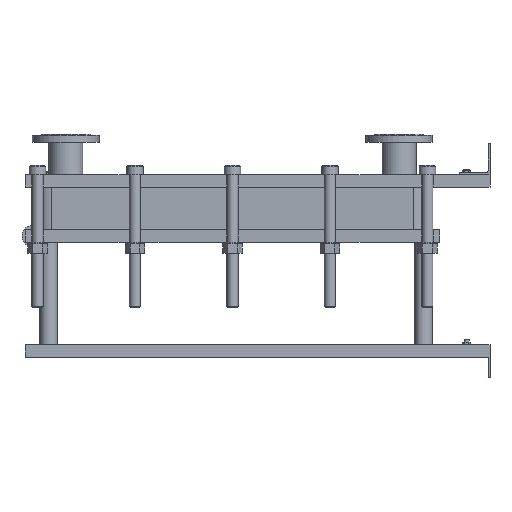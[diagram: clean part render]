
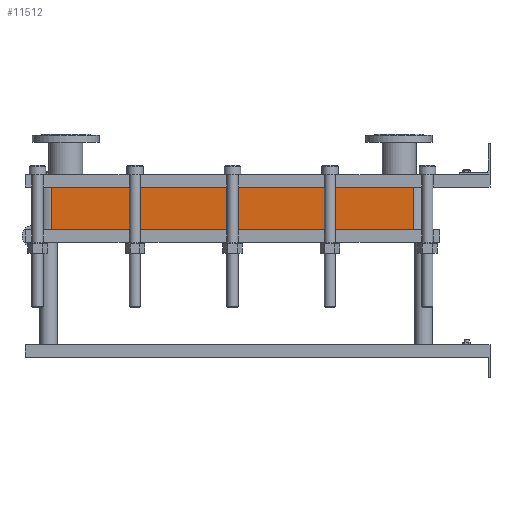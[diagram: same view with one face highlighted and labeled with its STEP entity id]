
A CAD part, left-side view. The second image highlights one B-rep face of the part: STEP entity #11512.
In plain terms, the highlighted planar face has unit normal (-1, 0, 0).
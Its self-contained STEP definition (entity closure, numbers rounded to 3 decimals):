
#1129=LINE('',#23232,#2102);
#1130=LINE('',#23236,#2103);
#1131=LINE('',#23238,#2104);
#1132=LINE('',#23239,#2105);
#2102=VECTOR('',#15887,10.);
#2103=VECTOR('',#15892,10.);
#2104=VECTOR('',#15893,10.);
#2105=VECTOR('',#15894,10.);
#3267=FACE_OUTER_BOUND('',#4093,.T.);
#4093=EDGE_LOOP('',(#10103,#10104,#10105,#10106));
#5642=VERTEX_POINT('',#23229);
#5643=VERTEX_POINT('',#23231);
#5644=VERTEX_POINT('',#23235);
#5645=VERTEX_POINT('',#23237);
#7159=EDGE_CURVE('',#5643,#5642,#1129,.T.);
#7161=EDGE_CURVE('',#5642,#5644,#1130,.T.);
#7162=EDGE_CURVE('',#5645,#5644,#1131,.T.);
#7163=EDGE_CURVE('',#5645,#5643,#1132,.T.);
#10103=ORIENTED_EDGE('',*,*,#7161,.T.);
#10104=ORIENTED_EDGE('',*,*,#7162,.F.);
#10105=ORIENTED_EDGE('',*,*,#7163,.T.);
#10106=ORIENTED_EDGE('',*,*,#7159,.T.);
#10857=PLANE('',#12751);
#11512=ADVANCED_FACE('',(#3267),#10857,.T.);
#12751=AXIS2_PLACEMENT_3D('',#23234,#15890,#15891);
#15887=DIRECTION('',(0.,0.,-1.));
#15890=DIRECTION('center_axis',(-1.,0.,0.));
#15891=DIRECTION('ref_axis',(0.,1.,0.));
#15892=DIRECTION('',(0.,-1.,0.));
#15893=DIRECTION('',(0.,0.,-1.));
#15894=DIRECTION('',(0.,1.,0.));
#23229=CARTESIAN_POINT('',(-200.,1414.,-138.));
#23231=CARTESIAN_POINT('',(-200.,1414.,0.));
#23232=CARTESIAN_POINT('',(-200.,1414.,0.));
#23234=CARTESIAN_POINT('Origin',(-200.,248.,0.));
#23235=CARTESIAN_POINT('',(-200.,248.,-138.));
#23236=CARTESIAN_POINT('',(-200.,539.5,-138.));
#23237=CARTESIAN_POINT('',(-200.,248.,0.));
#23238=CARTESIAN_POINT('',(-200.,248.,0.));
#23239=CARTESIAN_POINT('',(-200.,248.,0.));
